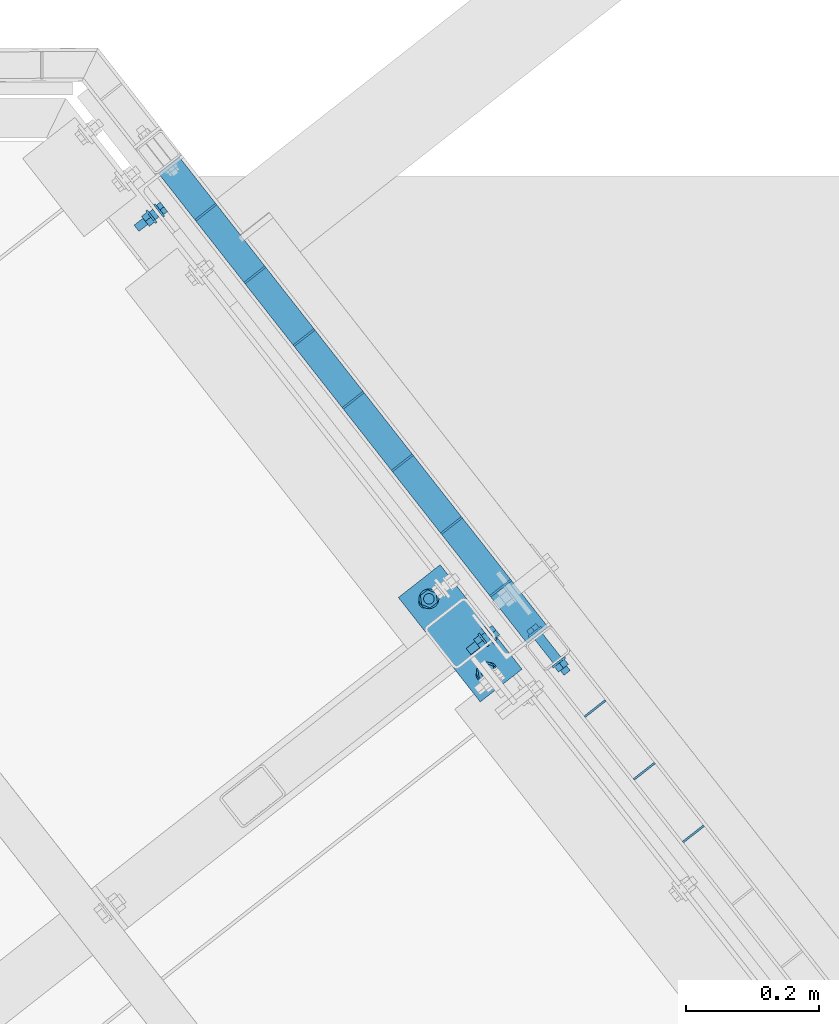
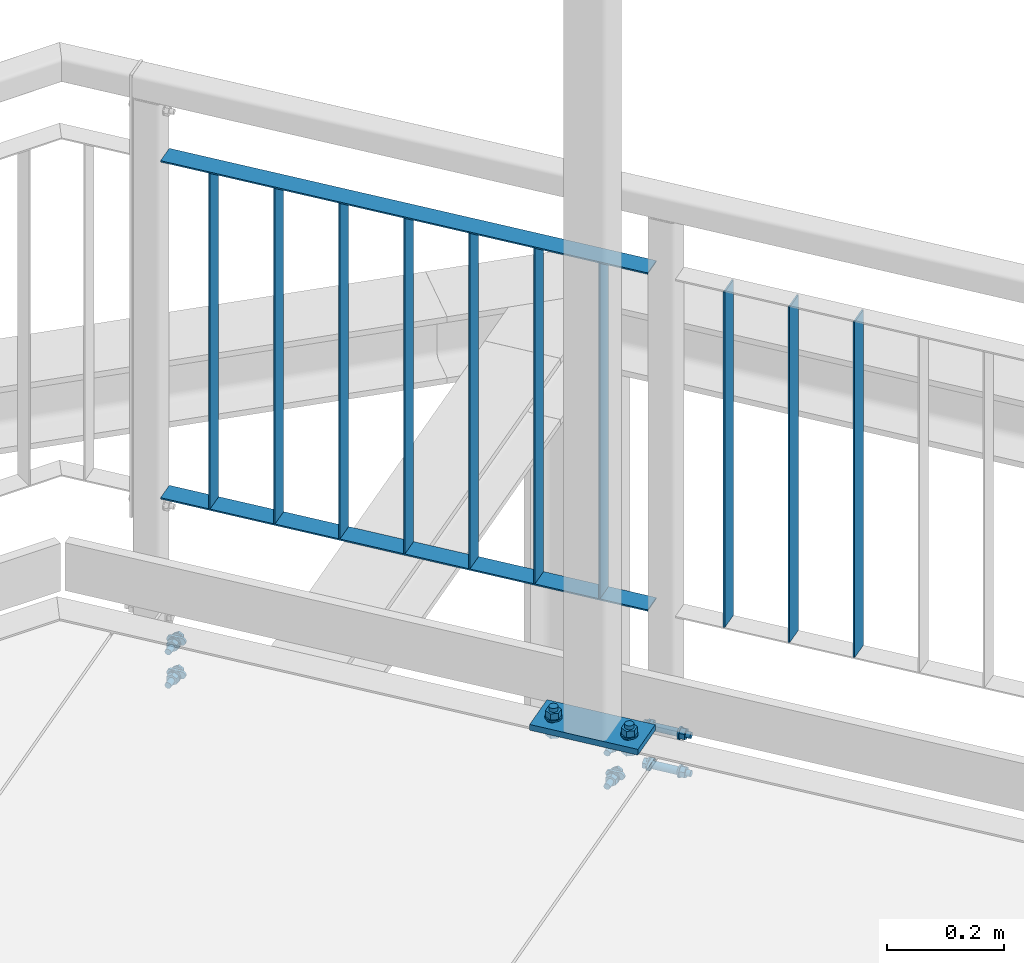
# One storey, part 130 of 169: 13 discrete accessories, 4 mechanical fasteners, 4 elements without a shape of their own.
"""IFC2X3 building model written with IfcOpenShell, lengths in millimetres."""

from ifc_helpers import new_model, si_unit, frame, frame_2d, origin_with_axes, origin_2d_with_axis, place, context, subcontext, project, spatial, polyline, circle_curve, parameter, trimmed, segment, composite_curve, rectangle, circle, outline, extrude, boolean, clip, halfspace, source, transform, mapped, material, type_object, element, aggregate, save


model = new_model("IFC2X3")

# Units and contexts
model_context = context("Model", 3, precision=1e-05, world=origin_with_axes())
body_context = subcontext(model_context, "Body", "Model", "MODEL_VIEW")
ifc_project = project(units=[si_unit("LENGTHUNIT", "METRE", prefix="MILLI"), si_unit("AREAUNIT", "SQUARE_METRE"), si_unit("VOLUMEUNIT", "CUBIC_METRE"), si_unit("MASSUNIT", "GRAM", prefix="KILO"), si_unit("TIMEUNIT", "SECOND"), si_unit("PLANEANGLEUNIT", "RADIAN"), si_unit("SOLIDANGLEUNIT", "STERADIAN"), si_unit("THERMODYNAMICTEMPERATUREUNIT", "DEGREE_CELSIUS"), si_unit("LUMINOUSINTENSITYUNIT", "LUMEN")], contexts=[model_context])

# Site, building, storey
site_placement = place(None, origin_with_axes())
site = spatial("IfcSite", under=ifc_project, at=site_placement, Name="Undefined", CompositionType="ELEMENT")
building_placement = place(site_placement, origin_with_axes())
building = spatial("IfcBuilding", under=site, at=building_placement, Name="Undefined", CompositionType="ELEMENT")
storey_placement = place(building_placement, origin_with_axes())
storey = spatial("IfcBuildingStorey", under=building, at=storey_placement, Name="Undefined", CompositionType="ELEMENT", Elevation=0.0)

# Assembly, discrete accessory
assembly_1_placement = place(storey_placement, origin_with_axes())
assembly_1 = element("IfcElementAssembly", 1, at=assembly_1_placement, inside=storey, Name="Steel Assembly", AssemblyPlace="NOTDEFINED", PredefinedType="RIGID_FRAME")
ifc_material_1 = material(Name="STEEL/S235")
discrete_accessory_type_1 = type_object("IfcDiscreteAccessoryType", Name="BLACHA")
discrete_accessory_1_placement = place(assembly_1_placement, frame((21773.2614845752, 1457.12449804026, 13802.4176281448), z_axis=(0.0, 0.0, 1.0), x_axis=(-0.7867732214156, -0.61724217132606, -1.0406294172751e-07)))
discrete_accessory_1 = element("IfcDiscreteAccessory", 2, at=discrete_accessory_1_placement, type_object=discrete_accessory_type_1, material=ifc_material_1, Name="BLACHA", ObjectType="BL12*200", context=body_context, shape_type="SweptSolid", body=[
    extrude(outline(polyline([(80.0, -100.00000000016), (-4.00177668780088e-11, -100.000000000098), (4.00177668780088e-11, 100.000000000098), (80.00000000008, 100.000000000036), (80.0, -100.00000000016)])), frame((-1.81898942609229e-12, -1.81898940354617e-12, -5.99999999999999), z_axis=(0.0, 0.0, 1.0), x_axis=(1.0, 0.0, 0.0)), (0.0, 0.0, 1.0), 12.0),
])

# Assembly, discrete accessories
assembly_2_placement = place(storey_placement, origin_with_axes())
assembly_2 = element("IfcElementAssembly", 3, at=assembly_2_placement, inside=storey, Name="Steel Assembly", AssemblyPlace="NOTDEFINED", PredefinedType="RIGID_FRAME")
discrete_accessory_type_2 = type_object("IfcDiscreteAccessoryType", Name="PORĘCZ")
discrete_accessory_2_placement = place(assembly_2_placement, frame((21271.7394440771, 2177.39946249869, 14725.4171405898), z_axis=(-2.54700353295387e-10, 0.0, -1.0), x_axis=(0.617242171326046, -0.786773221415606, 1.36000016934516e-07)))
discrete_accessory_2 = element("IfcDiscreteAccessory", 4, at=discrete_accessory_2_placement, type_object=discrete_accessory_type_2, material=ifc_material_1, Name="PORĘCZ", ObjectType="BL40*3", context=body_context, shape_type="CSG", body=[
    boolean("DIFFERENCE", boolean("DIFFERENCE", boolean("DIFFERENCE", boolean("DIFFERENCE", extrude(outline(polyline([(50.5000000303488, 20.0000000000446), (950.12675411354, 20.0000000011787), (950.126754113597, -19.9999999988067), (50.500000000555, -19.9999999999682), (50.5000000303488, 20.0000000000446)])), frame((1.81898940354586e-12, -1.77635442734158e-15, -1.50000000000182), z_axis=(0.0, 0.0, 1.0), x_axis=(1.0, 0.0, 0.0)), (0.0, 0.0, 1.0), 3.0), extrude(rectangle(XDim=51.0, YDim=51.0, at=origin_2d_with_axis()), frame((25.0000000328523, 4.80036578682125e-08, -139.999999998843), z_axis=(0.0, 0.0, 1.0), x_axis=(1.0, 0.0, 0.0)), (0.0, 0.0, 1.0), 280.0)), extrude(rectangle(XDim=51.0, YDim=51.0, at=origin_2d_with_axis()), frame((975.626758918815, -4.52191913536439e-08, -140.000000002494), z_axis=(0.0, 0.0, 1.0), x_axis=(1.0, 0.0, 0.0)), (0.0, 0.0, 1.0), 280.0)), halfspace(frame((50.0000003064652, 999.99999999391, 3.93811205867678e-09), z_axis=(1.0, 0.0, 0.0), x_axis=(-2.54700353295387e-10, 0.0, -1.0)), True)), halfspace(frame((950.626778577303, 1000.00000000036, -8.28986230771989e-07), z_axis=(-1.0, -3.46944695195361e-18, -1.38777878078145e-17), x_axis=(0.0, 0.0, 1.0)), True)),
])
discrete_accessory_3_placement = place(assembly_2_placement, frame((21358.346694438, 2067.00457729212, 14870.4175427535), z_axis=(-0.617242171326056, 0.786773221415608, 5.09999997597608e-08), x_axis=(-2.54700353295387e-10, 0.0, -1.0)))
discrete_accessory_3 = element("IfcDiscreteAccessory", 5, at=discrete_accessory_3_placement, type_object=discrete_accessory_type_2, material=ifc_material_1, Name="PORĘCZ", ObjectType="BL40*3", context=body_context, shape_type="Clipping", body=[
    clip(clip(clip(extrude(outline(polyline([(848.499998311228, 19.9999999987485), (848.500000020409, -20.000000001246), (146.500383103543, -20.0000000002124), (146.500381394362, 19.9999999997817), (848.499998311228, 19.9999999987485)])), frame((1.81898940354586e-12, -1.77635442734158e-15, -1.50000000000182), z_axis=(0.0, 0.0, 1.0), x_axis=(1.0, 0.0, 0.0)), (0.0, 0.0, 1.0), 3.0), halfspace(frame((146.500339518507, 1000.00000006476, -1.23327481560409e-09), z_axis=(1.0, 0.0, 0.0), x_axis=(-2.54700353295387e-10, 0.0, -1.0)), True)), halfspace(frame((848.499956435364, 999.999999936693, 2.33558239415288e-09), z_axis=(-1.0, -3.46944695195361e-18, -1.38777878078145e-17), x_axis=(0.0, 0.0, 1.0)), True)), halfspace(frame((24.9999999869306, 1000.00000000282, -1.78988557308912e-09), z_axis=(1.0, 0.0, 0.0), x_axis=(-2.54700353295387e-10, 0.0, -1.0)), True)),
])
discrete_accessory_4_placement = place(assembly_2_placement, frame((21432.4157549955, 1972.59179072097, 14870.4175590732), z_axis=(-0.617242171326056, 0.786773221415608, 5.09999997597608e-08), x_axis=(-2.54700353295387e-10, 0.0, -1.0)))
discrete_accessory_4 = element("IfcDiscreteAccessory", 6, at=discrete_accessory_4_placement, type_object=discrete_accessory_type_2, material=ifc_material_1, Name="PORĘCZ", ObjectType="BL40*3", context=body_context, shape_type="Clipping", body=[
    clip(clip(clip(extrude(outline(polyline([(848.499998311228, 19.9999999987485), (848.500000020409, -20.000000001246), (146.500383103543, -20.0000000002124), (146.500381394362, 19.9999999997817), (848.499998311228, 19.9999999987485)])), frame((1.81898940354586e-12, -1.77635442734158e-15, -1.50000000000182), z_axis=(0.0, 0.0, 1.0), x_axis=(1.0, 0.0, 0.0)), (0.0, 0.0, 1.0), 3.0), halfspace(frame((146.500339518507, 1000.00000006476, -1.23327481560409e-09), z_axis=(1.0, 0.0, 0.0), x_axis=(-2.54700353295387e-10, 0.0, -1.0)), True)), halfspace(frame((848.499956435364, 999.999999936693, 2.33558239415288e-09), z_axis=(-1.0, -3.46944695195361e-18, -1.38777878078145e-17), x_axis=(0.0, 0.0, 1.0)), True)), halfspace(frame((24.9999999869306, 1000.00000000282, -1.78988557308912e-09), z_axis=(1.0, 0.0, 0.0), x_axis=(-2.54700353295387e-10, 0.0, -1.0)), True)),
])
discrete_accessory_5_placement = place(assembly_2_placement, frame((21506.4848155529, 1878.17900414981, 14870.417575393), z_axis=(-0.617242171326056, 0.786773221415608, 5.09999997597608e-08), x_axis=(-2.54700353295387e-10, 0.0, -1.0)))
discrete_accessory_5 = element("IfcDiscreteAccessory", 7, at=discrete_accessory_5_placement, type_object=discrete_accessory_type_2, material=ifc_material_1, Name="PORĘCZ", ObjectType="BL40*3", context=body_context, shape_type="Clipping", body=[
    clip(clip(clip(extrude(outline(polyline([(848.499998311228, 19.9999999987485), (848.500000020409, -20.000000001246), (146.500383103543, -20.0000000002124), (146.500381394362, 19.9999999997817), (848.499998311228, 19.9999999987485)])), frame((1.81898940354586e-12, -1.77635442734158e-15, -1.50000000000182), z_axis=(0.0, 0.0, 1.0), x_axis=(1.0, 0.0, 0.0)), (0.0, 0.0, 1.0), 3.0), halfspace(frame((146.500339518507, 1000.00000006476, -1.23327481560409e-09), z_axis=(1.0, 0.0, 0.0), x_axis=(-2.54700353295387e-10, 0.0, -1.0)), True)), halfspace(frame((848.499956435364, 999.999999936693, 2.33558239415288e-09), z_axis=(-1.0, -3.46944695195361e-18, -1.38777878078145e-17), x_axis=(0.0, 0.0, 1.0)), True)), halfspace(frame((24.9999999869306, 1000.00000000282, -1.78988557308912e-09), z_axis=(1.0, 0.0, 0.0), x_axis=(-2.54700353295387e-10, 0.0, -1.0)), True)),
])
discrete_accessory_6_placement = place(assembly_2_placement, frame((21580.5538761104, 1783.76621757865, 14870.4175917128), z_axis=(-0.617242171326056, 0.786773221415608, 5.09999997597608e-08), x_axis=(-2.54700353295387e-10, 0.0, -1.0)))
discrete_accessory_6 = element("IfcDiscreteAccessory", 8, at=discrete_accessory_6_placement, type_object=discrete_accessory_type_2, material=ifc_material_1, Name="PORĘCZ", ObjectType="BL40*3", context=body_context, shape_type="Clipping", body=[
    clip(clip(clip(extrude(outline(polyline([(848.499998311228, 19.9999999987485), (848.500000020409, -20.000000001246), (146.500383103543, -20.0000000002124), (146.500381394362, 19.9999999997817), (848.499998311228, 19.9999999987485)])), frame((1.81898940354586e-12, -1.77635442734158e-15, -1.50000000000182), z_axis=(0.0, 0.0, 1.0), x_axis=(1.0, 0.0, 0.0)), (0.0, 0.0, 1.0), 3.0), halfspace(frame((146.500339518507, 1000.00000006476, -1.23327481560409e-09), z_axis=(1.0, 0.0, 0.0), x_axis=(-2.54700353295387e-10, 0.0, -1.0)), True)), halfspace(frame((848.499956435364, 999.999999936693, 2.33558239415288e-09), z_axis=(-1.0, -3.46944695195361e-18, -1.38777878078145e-17), x_axis=(0.0, 0.0, 1.0)), True)), halfspace(frame((24.9999999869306, 1000.00000000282, -1.78988557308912e-09), z_axis=(1.0, 0.0, 0.0), x_axis=(-2.54700353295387e-10, 0.0, -1.0)), True)),
])
discrete_accessory_7_placement = place(assembly_2_placement, frame((21654.6229366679, 1689.35343100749, 14870.4176080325), z_axis=(-0.617242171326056, 0.786773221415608, 5.09999997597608e-08), x_axis=(-2.54700353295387e-10, 0.0, -1.0)))
discrete_accessory_7 = element("IfcDiscreteAccessory", 9, at=discrete_accessory_7_placement, type_object=discrete_accessory_type_2, material=ifc_material_1, Name="PORĘCZ", ObjectType="BL40*3", context=body_context, shape_type="Clipping", body=[
    clip(clip(clip(extrude(outline(polyline([(848.499998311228, 19.9999999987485), (848.500000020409, -20.000000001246), (146.500383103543, -20.0000000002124), (146.500381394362, 19.9999999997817), (848.499998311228, 19.9999999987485)])), frame((1.81898940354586e-12, -1.77635442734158e-15, -1.50000000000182), z_axis=(0.0, 0.0, 1.0), x_axis=(1.0, 0.0, 0.0)), (0.0, 0.0, 1.0), 3.0), halfspace(frame((146.500339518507, 1000.00000006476, -1.23327481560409e-09), z_axis=(1.0, 0.0, 0.0), x_axis=(-2.54700353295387e-10, 0.0, -1.0)), True)), halfspace(frame((848.499956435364, 999.999999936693, 2.33558239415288e-09), z_axis=(-1.0, -3.46944695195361e-18, -1.38777878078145e-17), x_axis=(0.0, 0.0, 1.0)), True)), halfspace(frame((24.9999999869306, 1000.00000000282, -1.78988557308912e-09), z_axis=(1.0, 0.0, 0.0), x_axis=(-2.54700353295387e-10, 0.0, -1.0)), True)),
])
discrete_accessory_8_placement = place(assembly_2_placement, frame((21728.6919972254, 1594.94064443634, 14870.4176243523), z_axis=(-0.617242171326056, 0.786773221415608, 5.09999997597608e-08), x_axis=(-2.54700353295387e-10, 0.0, -1.0)))
discrete_accessory_8 = element("IfcDiscreteAccessory", 10, at=discrete_accessory_8_placement, type_object=discrete_accessory_type_2, material=ifc_material_1, Name="PORĘCZ", ObjectType="BL40*3", context=body_context, shape_type="Clipping", body=[
    clip(clip(clip(extrude(outline(polyline([(848.499998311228, 19.9999999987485), (848.500000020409, -20.000000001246), (146.500383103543, -20.0000000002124), (146.500381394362, 19.9999999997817), (848.499998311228, 19.9999999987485)])), frame((1.81898940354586e-12, -1.77635442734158e-15, -1.50000000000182), z_axis=(0.0, 0.0, 1.0), x_axis=(1.0, 0.0, 0.0)), (0.0, 0.0, 1.0), 3.0), halfspace(frame((146.500339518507, 1000.00000006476, -1.23327481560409e-09), z_axis=(1.0, 0.0, 0.0), x_axis=(-2.54700353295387e-10, 0.0, -1.0)), True)), halfspace(frame((848.499956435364, 999.999999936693, 2.33558239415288e-09), z_axis=(-1.0, -3.46944695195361e-18, -1.38777878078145e-17), x_axis=(0.0, 0.0, 1.0)), True)), halfspace(frame((24.9999999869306, 1000.00000000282, -1.78988557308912e-09), z_axis=(1.0, 0.0, 0.0), x_axis=(-2.54700353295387e-10, 0.0, -1.0)), True)),
])
discrete_accessory_9_placement = place(assembly_2_placement, frame((21802.7610577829, 1500.52785786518, 14870.417640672), z_axis=(-0.617242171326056, 0.786773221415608, 5.09999997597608e-08), x_axis=(-2.54700353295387e-10, 0.0, -1.0)))
discrete_accessory_9 = element("IfcDiscreteAccessory", 11, at=discrete_accessory_9_placement, type_object=discrete_accessory_type_2, material=ifc_material_1, Name="PORĘCZ", ObjectType="BL40*3", context=body_context, shape_type="Clipping", body=[
    clip(clip(clip(extrude(outline(polyline([(848.499998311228, 19.9999999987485), (848.500000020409, -20.000000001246), (146.500383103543, -20.0000000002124), (146.500381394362, 19.9999999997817), (848.499998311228, 19.9999999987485)])), frame((1.81898940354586e-12, -1.77635442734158e-15, -1.50000000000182), z_axis=(0.0, 0.0, 1.0), x_axis=(1.0, 0.0, 0.0)), (0.0, 0.0, 1.0), 3.0), halfspace(frame((146.500339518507, 1000.00000006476, -1.23327481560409e-09), z_axis=(1.0, 0.0, 0.0), x_axis=(-2.54700353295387e-10, 0.0, -1.0)), True)), halfspace(frame((848.499956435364, 999.999999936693, 2.33558239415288e-09), z_axis=(-1.0, -3.46944695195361e-18, -1.38777878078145e-17), x_axis=(0.0, 0.0, 1.0)), True)), halfspace(frame((24.9999999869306, 1000.00000000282, -1.78988557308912e-09), z_axis=(1.0, 0.0, 0.0), x_axis=(-2.54700353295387e-10, 0.0, -1.0)), True)),
])
discrete_accessory_10_placement = place(assembly_2_placement, frame((21945.1136162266, 1319.07690361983, 14870.4176720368), z_axis=(-0.617242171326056, 0.786773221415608, 5.09999997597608e-08), x_axis=(-2.54700353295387e-10, 0.0, -1.0)))
discrete_accessory_10 = element("IfcDiscreteAccessory", 12, at=discrete_accessory_10_placement, type_object=discrete_accessory_type_2, material=ifc_material_1, Name="PORĘCZ", ObjectType="BL40*3", context=body_context, shape_type="Clipping", body=[
    clip(clip(clip(extrude(outline(polyline([(848.499998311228, 19.9999999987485), (848.500000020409, -20.000000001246), (146.500383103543, -20.0000000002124), (146.500381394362, 19.9999999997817), (848.499998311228, 19.9999999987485)])), frame((1.81898940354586e-12, -1.77635442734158e-15, -1.50000000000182), z_axis=(0.0, 0.0, 1.0), x_axis=(1.0, 0.0, 0.0)), (0.0, 0.0, 1.0), 3.0), halfspace(frame((146.500339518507, 1000.00000006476, -1.23327481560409e-09), z_axis=(1.0, 0.0, 0.0), x_axis=(-2.54700353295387e-10, 0.0, -1.0)), True)), halfspace(frame((848.499956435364, 999.999999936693, 2.33558239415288e-09), z_axis=(-1.0, -3.46944695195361e-18, -1.38777878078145e-17), x_axis=(0.0, 0.0, 1.0)), True)), halfspace(frame((24.9999999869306, 1000.00000000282, -1.78988557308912e-09), z_axis=(1.0, 0.0, 0.0), x_axis=(-2.54700353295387e-10, 0.0, -1.0)), True)),
])
discrete_accessory_11_placement = place(assembly_2_placement, frame((22019.1826767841, 1224.66411704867, 14870.4176883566), z_axis=(-0.617242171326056, 0.786773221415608, 5.09999997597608e-08), x_axis=(-2.54700353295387e-10, 0.0, -1.0)))
discrete_accessory_11 = element("IfcDiscreteAccessory", 13, at=discrete_accessory_11_placement, type_object=discrete_accessory_type_2, material=ifc_material_1, Name="PORĘCZ", ObjectType="BL40*3", context=body_context, shape_type="Clipping", body=[
    clip(clip(clip(extrude(outline(polyline([(848.499998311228, 19.9999999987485), (848.500000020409, -20.000000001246), (146.500383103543, -20.0000000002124), (146.500381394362, 19.9999999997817), (848.499998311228, 19.9999999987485)])), frame((1.81898940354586e-12, -1.77635442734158e-15, -1.50000000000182), z_axis=(0.0, 0.0, 1.0), x_axis=(1.0, 0.0, 0.0)), (0.0, 0.0, 1.0), 3.0), halfspace(frame((146.500339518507, 1000.00000006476, -1.23327481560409e-09), z_axis=(1.0, 0.0, 0.0), x_axis=(-2.54700353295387e-10, 0.0, -1.0)), True)), halfspace(frame((848.499956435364, 999.999999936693, 2.33558239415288e-09), z_axis=(-1.0, -3.46944695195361e-18, -1.38777878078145e-17), x_axis=(0.0, 0.0, 1.0)), True)), halfspace(frame((24.9999999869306, 1000.00000000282, -1.78988557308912e-09), z_axis=(1.0, 0.0, 0.0), x_axis=(-2.54700353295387e-10, 0.0, -1.0)), True)),
])
discrete_accessory_12_placement = place(assembly_2_placement, frame((22093.2517373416, 1130.25133047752, 14870.4177046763), z_axis=(-0.617242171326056, 0.786773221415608, 5.09999997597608e-08), x_axis=(-2.54700353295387e-10, 0.0, -1.0)))
discrete_accessory_12 = element("IfcDiscreteAccessory", 14, at=discrete_accessory_12_placement, type_object=discrete_accessory_type_2, material=ifc_material_1, Name="PORĘCZ", ObjectType="BL40*3", context=body_context, shape_type="Clipping", body=[
    clip(clip(clip(extrude(outline(polyline([(848.499998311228, 19.9999999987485), (848.500000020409, -20.000000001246), (146.500383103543, -20.0000000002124), (146.500381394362, 19.9999999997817), (848.499998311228, 19.9999999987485)])), frame((1.81898940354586e-12, -1.77635442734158e-15, -1.50000000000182), z_axis=(0.0, 0.0, 1.0), x_axis=(1.0, 0.0, 0.0)), (0.0, 0.0, 1.0), 3.0), halfspace(frame((146.500339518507, 1000.00000006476, -1.23327481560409e-09), z_axis=(1.0, 0.0, 0.0), x_axis=(-2.54700353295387e-10, 0.0, -1.0)), True)), halfspace(frame((848.499956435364, 999.999999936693, 2.33558239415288e-09), z_axis=(-1.0, -3.46944695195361e-18, -1.38777878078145e-17), x_axis=(0.0, 0.0, 1.0)), True)), halfspace(frame((24.9999999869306, 1000.00000000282, -1.78988557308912e-09), z_axis=(1.0, 0.0, 0.0), x_axis=(-2.54700353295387e-10, 0.0, -1.0)), True)),
])
discrete_accessory_13_placement = place(assembly_2_placement, frame((21271.7395032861, 2177.39938708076, 14020.4175236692), z_axis=(-2.54700353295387e-10, 0.0, -1.0), x_axis=(0.617242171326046, -0.786773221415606, 1.36000016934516e-07)))
discrete_accessory_13 = element("IfcDiscreteAccessory", 15, at=discrete_accessory_13_placement, type_object=discrete_accessory_type_2, material=ifc_material_1, Name="PORĘCZ", ObjectType="BL40*3", context=body_context, shape_type="CSG", body=[
    boolean("DIFFERENCE", boolean("DIFFERENCE", boolean("DIFFERENCE", boolean("DIFFERENCE", extrude(outline(polyline([(50.5000000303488, 20.0000000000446), (950.12675411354, 20.0000000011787), (950.126754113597, -19.9999999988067), (50.500000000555, -19.9999999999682), (50.5000000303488, 20.0000000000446)])), frame((1.81898940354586e-12, -1.77635442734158e-15, -1.50000000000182), z_axis=(0.0, 0.0, 1.0), x_axis=(1.0, 0.0, 0.0)), (0.0, 0.0, 1.0), 3.0), extrude(rectangle(XDim=51.0, YDim=51.0, at=origin_2d_with_axis()), frame((25.0000000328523, 4.80036578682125e-08, -139.999999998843), z_axis=(0.0, 0.0, 1.0), x_axis=(1.0, 0.0, 0.0)), (0.0, 0.0, 1.0), 280.0)), extrude(rectangle(XDim=51.0, YDim=51.0, at=origin_2d_with_axis()), frame((975.626758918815, -4.52191913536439e-08, -140.000000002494), z_axis=(0.0, 0.0, 1.0), x_axis=(1.0, 0.0, 0.0)), (0.0, 0.0, 1.0), 280.0)), halfspace(frame((50.0000003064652, 999.99999999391, 3.93811205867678e-09), z_axis=(1.0, 0.0, 0.0), x_axis=(-2.54700353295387e-10, 0.0, -1.0)), True)), halfspace(frame((950.626778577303, 1000.00000000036, -8.28986230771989e-07), z_axis=(-1.0, -3.46944695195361e-18, -1.38777878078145e-17), x_axis=(0.0, 0.0, 1.0)), True)),
])
aggregate(assembly_2, [discrete_accessory_2, discrete_accessory_3, discrete_accessory_4, discrete_accessory_5, discrete_accessory_6, discrete_accessory_7, discrete_accessory_8, discrete_accessory_9, discrete_accessory_10, discrete_accessory_11, discrete_accessory_12, discrete_accessory_13])

# Assembly, mechanical fastener
assembly_3_placement = place(storey_placement, origin_with_axes())
assembly_3 = element("IfcElementAssembly", 16, at=assembly_3_placement, inside=storey, Name="Steel Assembly", AssemblyPlace="NOTDEFINED", PredefinedType="RIGID_FRAME")
ifc_material_2 = material(Name="Undefined")
discrete_accessory_type_3 = type_object("IfcDiscreteAccessoryType", Name="Bolt assembly")
shared_shape_1 = source(origin_with_axes(), body_context, "Body", "SweptSolid", [
    extrude(circle(Radius=7.5, at=origin_2d_with_axis()), frame((0.0, 4.89999999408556, 0.0), z_axis=(0.0, 1.0, 0.0), x_axis=(1.0, 0.0, 0.0)), (0.0, 0.0, 1.0), 7.1),
    extrude(outline(composite_curve([segment(polyline([(7.5, 10.0), (7.5, -10.0)]), True, "CONTINUOUS"), segment(trimmed(circle_curve(frame_2d((0.0, -10.0), x_axis=(1.0, 0.0)), 7.5), [parameter(0.0)], [parameter(3.14159265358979)], False, "PARAMETER"), True, "CONTINUOUS"), segment(polyline([(-7.5, -10.0), (-7.5, 10.0)]), True, "CONTINUOUS"), segment(trimmed(circle_curve(frame_2d((0.0, 10.0), x_axis=(-1.0, 0.0)), 7.5), [parameter(0.0)], [parameter(3.14159265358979)], False, "PARAMETER"), True, "DISCONTINUOUS")], self_intersect=False)), frame((0.0, 0.100000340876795, 0.0), z_axis=(0.0, 1.0, 0.0), x_axis=(1.0, 0.0, 0.0)), (0.0, 0.0, 1.0), 5.0),
    extrude(outline(polyline([(10.39230484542, 0.0), (5.19615242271, 9.00000000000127), (-5.19615242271, 9.00000000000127), (-10.39230484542, 0.0), (-5.19615242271, -9.00000000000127), (5.19615242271, -9.00000000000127), (10.39230484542, 0.0)])), frame((0.0, -10.4999989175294, 0.0), z_axis=(0.0, 1.0, 0.0), x_axis=(1.0, 0.0, 0.0)), (0.0, 0.0, 1.0), 7.5),
    extrude(circle(Radius=6.0, at=origin_2d_with_axis()), frame((0.0, -3.00000607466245, 0.0), z_axis=(0.0, 1.0, 0.0), x_axis=(1.0, 0.0, 0.0)), (0.0, 0.0, 1.0), 45.0),
    extrude(circle(Radius=12.0, at=origin_2d_with_axis()), frame((0.0, -3.00000607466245, 0.0), z_axis=(0.0, 1.0, 0.0), x_axis=(1.0, 0.0, 0.0)), (0.0, 0.0, 1.0), 3.0),
    extrude(circle(Radius=12.0, at=origin_2d_with_axis()), frame((0.0, 12.000000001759, 0.0), z_axis=(0.0, 1.0, 0.0), x_axis=(1.0, 0.0, 0.0)), (0.0, 0.0, 1.0), 3.0),
    extrude(outline(polyline([(10.96965511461, 0.0), (5.484827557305, 9.50000000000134), (-5.484827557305, 9.50000000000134), (-10.96965511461, 0.0), (-5.484827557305, -9.50000000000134), (5.484827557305, -9.50000000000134), (10.96965511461, 0.0)])), frame((0.0, 14.9999935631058, 0.0), z_axis=(0.0, 1.0, 0.0), x_axis=(1.0, 0.0, 0.0)), (0.0, 0.0, 1.0), 10.0),
])
mechanical_fastener_1_placement = place(assembly_3_placement, frame((21287.1050176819, 2068.70759154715, 13690.4175405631), z_axis=(0.617242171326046, -0.786773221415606, 1.36000016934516e-07), x_axis=(0.0, 0.0, 1.0)))
mechanical_fastener_1 = element("IfcMechanicalFastener", 17, at=mechanical_fastener_1_placement, type_object=discrete_accessory_type_3, material=ifc_material_2, Name="Bolt assembly", NominalDiameter=12.0, NominalLength=45.0, context=body_context, shape_type="MappedRepresentation", body=[
    mapped(shared_shape_1, transform((0.0, 0.0, 0.0))),
    mapped(shared_shape_1, transform((70.0000000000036, -8.45830072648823e-11, -2.18278728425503e-11))),
])
aggregate(assembly_3, [mechanical_fastener_1])

# Assembly, mechanical fasteners
assembly_4_placement = place(storey_placement, origin_with_axes())
assembly_4 = element("IfcElementAssembly", 18, at=assembly_4_placement, inside=storey, Name="Steel Assembly", AssemblyPlace="NOTDEFINED", PredefinedType="RIGID_FRAME")
shared_shape_2 = source(origin_with_axes(), body_context, "Body", "SweptSolid", [
    extrude(circle(Radius=7.5, at=origin_2d_with_axis()), frame((0.0, 4.89999999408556, 0.0), z_axis=(0.0, 1.0, 0.0), x_axis=(1.0, 0.0, 0.0)), (0.0, 0.0, 1.0), 7.1),
    extrude(outline(composite_curve([segment(polyline([(7.5, 10.0), (7.5, -10.0)]), True, "CONTINUOUS"), segment(trimmed(circle_curve(frame_2d((0.0, -10.0), x_axis=(1.0, 0.0)), 7.5), [parameter(0.0)], [parameter(3.14159265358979)], False, "PARAMETER"), True, "CONTINUOUS"), segment(polyline([(-7.5, -10.0), (-7.5, 10.0)]), True, "CONTINUOUS"), segment(trimmed(circle_curve(frame_2d((0.0, 10.0), x_axis=(-1.0, 0.0)), 7.5), [parameter(0.0)], [parameter(3.14159265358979)], False, "PARAMETER"), True, "DISCONTINUOUS")], self_intersect=False)), frame((0.0, 0.100000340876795, 0.0), z_axis=(0.0, 1.0, 0.0), x_axis=(1.0, 0.0, 0.0)), (0.0, 0.0, 1.0), 5.0),
    extrude(outline(polyline([(10.39230484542, 0.0), (5.19615242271, 9.00000000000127), (-5.19615242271, 9.00000000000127), (-10.39230484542, 0.0), (-5.19615242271, -9.00000000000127), (5.19615242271, -9.00000000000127), (10.39230484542, 0.0)])), frame((0.0, -10.4999989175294, 0.0), z_axis=(0.0, 1.0, 0.0), x_axis=(1.0, 0.0, 0.0)), (0.0, 0.0, 1.0), 7.5),
    extrude(circle(Radius=6.0, at=origin_2d_with_axis()), frame((0.0, -3.00000607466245, 0.0), z_axis=(0.0, 1.0, 0.0), x_axis=(1.0, 0.0, 0.0)), (0.0, 0.0, 1.0), 45.0),
    extrude(circle(Radius=12.0, at=origin_2d_with_axis()), frame((0.0, -3.00000607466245, 0.0), z_axis=(0.0, 1.0, 0.0), x_axis=(1.0, 0.0, 0.0)), (0.0, 0.0, 1.0), 3.0),
    extrude(circle(Radius=12.0, at=origin_2d_with_axis()), frame((0.0, 12.000000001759, 0.0), z_axis=(0.0, 1.0, 0.0), x_axis=(1.0, 0.0, 0.0)), (0.0, 0.0, 1.0), 3.0),
    extrude(outline(polyline([(10.96965511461, 0.0), (5.484827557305, 9.50000000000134), (-5.484827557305, 9.50000000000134), (-10.96965511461, 0.0), (-5.484827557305, -9.50000000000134), (5.484827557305, -9.50000000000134), (10.96965511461, 0.0)])), frame((0.0, 14.9999935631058, 0.0), z_axis=(0.0, 1.0, 0.0), x_axis=(1.0, 0.0, 0.0)), (0.0, 0.0, 1.0), 10.0),
])
mechanical_fastener_2_placement = place(assembly_4_placement, frame((21787.4580455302, 1430.92817676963, 13690.4176504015), z_axis=(0.617242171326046, -0.786773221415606, 1.36000016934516e-07), x_axis=(0.0, 0.0, 1.0)))
mechanical_fastener_2 = element("IfcMechanicalFastener", 19, at=mechanical_fastener_2_placement, type_object=discrete_accessory_type_3, material=ifc_material_2, Name="Bolt assembly", NominalDiameter=12.0, NominalLength=45.0, context=body_context, shape_type="MappedRepresentation", body=[
    mapped(shared_shape_2, transform((0.0, 0.0, 0.0))),
    mapped(shared_shape_2, transform((70.0000000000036, -8.45830072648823e-11, -2.18278728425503e-11))),
])
shared_shape_3 = source(origin_with_axes(), body_context, "Body", "SweptSolid", [
    extrude(circle(Radius=7.5, at=origin_2d_with_axis()), frame((0.0, 4.89999999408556, 0.0), z_axis=(0.0, 1.0, 0.0), x_axis=(1.0, 0.0, 0.0)), (0.0, 0.0, 1.0), 50.1),
    extrude(outline(composite_curve([segment(polyline([(7.5, 7.5), (7.5, -7.5)]), True, "CONTINUOUS"), segment(trimmed(circle_curve(frame_2d((0.0, -7.5), x_axis=(1.0, 0.0)), 7.5), [parameter(0.0)], [parameter(3.14159265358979)], False, "PARAMETER"), True, "CONTINUOUS"), segment(polyline([(-7.5, -7.5), (-7.5, 7.5)]), True, "CONTINUOUS"), segment(trimmed(circle_curve(frame_2d((0.0, 7.5), x_axis=(-1.0, 0.0)), 7.5), [parameter(0.0)], [parameter(3.14159265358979)], False, "PARAMETER"), True, "DISCONTINUOUS")], self_intersect=False)), frame((0.0, 0.100000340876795, 0.0), z_axis=(0.0, 1.0, 0.0), x_axis=(1.0, 0.0, 0.0)), (0.0, 0.0, 1.0), 5.0),
    extrude(outline(polyline([(10.39230484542, 0.0), (5.19615242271, 9.00000000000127), (-5.19615242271, 9.00000000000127), (-10.39230484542, 0.0), (-5.19615242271, -9.00000000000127), (5.19615242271, -9.00000000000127), (10.39230484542, 0.0)])), frame((0.0, -10.4999989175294, 0.0), z_axis=(0.0, 1.0, 0.0), x_axis=(1.0, 0.0, 0.0)), (0.0, 0.0, 1.0), 7.5),
    extrude(circle(Radius=6.0, at=origin_2d_with_axis()), frame((0.0, -3.00000607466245, 0.0), z_axis=(0.0, 1.0, 0.0), x_axis=(1.0, 0.0, 0.0)), (0.0, 0.0, 1.0), 80.0),
    extrude(circle(Radius=12.0, at=origin_2d_with_axis()), frame((0.0, -3.00000607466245, 0.0), z_axis=(0.0, 1.0, 0.0), x_axis=(1.0, 0.0, 0.0)), (0.0, 0.0, 1.0), 3.0),
    extrude(circle(Radius=12.0, at=origin_2d_with_axis()), frame((0.0, 54.9999999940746, 0.0), z_axis=(0.0, 1.0, 0.0), x_axis=(1.0, 0.0, 0.0)), (0.0, 0.0, 1.0), 3.0),
    extrude(outline(polyline([(10.96965511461, 0.0), (5.484827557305, 9.50000000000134), (-5.484827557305, 9.50000000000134), (-10.96965511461, 0.0), (-5.484827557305, -9.50000000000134), (5.484827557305, -9.50000000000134), (10.96965511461, 0.0)])), frame((0.0, 57.9999999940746, 0.0), z_axis=(0.0, 1.0, 0.0), x_axis=(1.0, 0.0, 0.0)), (0.0, 0.0, 1.0), 10.0),
])
mechanical_fastener_3_placement = place(assembly_4_placement, frame((21855.420259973, 1433.4055668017, 13685.4176558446), z_axis=(0.786773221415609, 0.617242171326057, 0.0), x_axis=(0.0, 0.0, 1.0)))
mechanical_fastener_3 = element("IfcMechanicalFastener", 20, at=mechanical_fastener_3_placement, type_object=discrete_accessory_type_3, material=ifc_material_2, Name="Bolt assembly", NominalDiameter=12.0, NominalLength=80.0, context=body_context, shape_type="MappedRepresentation", body=[
    mapped(shared_shape_3, transform((0.0, 0.0, 0.0))),
    mapped(shared_shape_3, transform((79.9999999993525, -4.5446979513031e-13, -4.53637127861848e-13))),
])
aggregate(assembly_4, [mechanical_fastener_2, mechanical_fastener_3])

# Mechanical fastener
shared_shape_4 = source(origin_with_axes(), body_context, "Body", "SweptSolid", [
    extrude(circle(Radius=9.5, at=origin_2d_with_axis()), frame((0.0, -11.3999999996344, 0.0), z_axis=(0.0, 1.0, 0.0), x_axis=(1.0, 0.0, 0.0)), (0.0, 0.0, 1.0), 10.0),
    extrude(outline(composite_curve([segment(polyline([(-7.5, 9.5), (7.5, 9.5)]), True, "CONTINUOUS"), segment(trimmed(circle_curve(frame_2d((7.5, 0.0), x_axis=(0.0, 1.0)), 9.5), [parameter(0.0)], [parameter(3.14159265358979)], False, "PARAMETER"), True, "CONTINUOUS"), segment(polyline([(7.5, -9.5), (-7.5, -9.5)]), True, "CONTINUOUS"), segment(trimmed(circle_curve(frame_2d((-7.5, 0.0), x_axis=(0.0, -1.0)), 9.5), [parameter(0.0)], [parameter(3.14159265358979)], False, "PARAMETER"), True, "DISCONTINUOUS")], self_intersect=False)), frame((0.0, -0.600000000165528, 0.0), z_axis=(0.0, 1.0, 0.0), x_axis=(1.0, 0.0, 0.0)), (0.0, 0.0, 1.0), 12.1),
    extrude(outline(polyline([(13.85640646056, 0.0), (6.92820323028, 12.0000000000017), (-6.92820323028, 12.0000000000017), (-13.85640646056, 0.0), (-6.92820323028, -12.0000000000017), (6.92820323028, -12.0000000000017), (13.85640646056, 0.0)])), frame((0.0, -24.4999999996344, 0.0), z_axis=(0.0, 1.0, 0.0), x_axis=(1.0, 0.0, 0.0)), (0.0, 0.0, 1.0), 10.0),
    extrude(circle(Radius=8.0, at=origin_2d_with_axis()), frame((0.0, -14.4999999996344, 0.0), z_axis=(0.0, 1.0, 0.0), x_axis=(1.0, 0.0, 0.0)), (0.0, 0.0, 1.0), 50.0),
    extrude(circle(Radius=15.0, at=origin_2d_with_axis()), frame((0.0, -14.4999999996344, 0.0), z_axis=(0.0, 1.0, 0.0), x_axis=(1.0, 0.0, 0.0)), (0.0, 0.0, 1.0), 3.0),
    extrude(circle(Radius=15.0, at=origin_2d_with_axis()), frame((0.0, 11.4999999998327, 0.0), z_axis=(0.0, 1.0, 0.0), x_axis=(1.0, 0.0, 0.0)), (0.0, 0.0, 1.0), 3.0),
    extrude(outline(polyline([(13.85640646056, 0.0), (6.92820323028, 12.0000000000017), (-6.92820323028, 12.0000000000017), (-13.85640646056, 0.0), (-6.92820323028, -12.0000000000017), (6.92820323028, -12.0000000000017), (13.85640646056, 0.0)])), frame((0.0, 14.4999999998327, 0.0), z_axis=(0.0, 1.0, 0.0), x_axis=(1.0, 0.0, 0.0)), (0.0, 0.0, 1.0), 13.0),
])
mechanical_fastener_4_placement = place(assembly_1_placement, frame((21714.2534938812, 1410.83133495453, 13796.917620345), z_axis=(0.617242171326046, -0.786773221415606, 1.36000016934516e-07), x_axis=(0.786773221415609, 0.617242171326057, 0.0)))
mechanical_fastener_4 = element("IfcMechanicalFastener", 21, at=mechanical_fastener_4_placement, type_object=discrete_accessory_type_3, material=ifc_material_2, Name="Bolt assembly", NominalDiameter=16.0, NominalLength=50.0, context=body_context, shape_type="MappedRepresentation", body=[
    mapped(shared_shape_4, transform((29.9999999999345, -2.72848410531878e-11, -70.0000000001))),
    mapped(shared_shape_4, transform((30.0000000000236, 4.00177668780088e-11, 69.9999999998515))),
])

aggregate(assembly_1, [mechanical_fastener_4, discrete_accessory_1])

save(model, "model.ifc")
